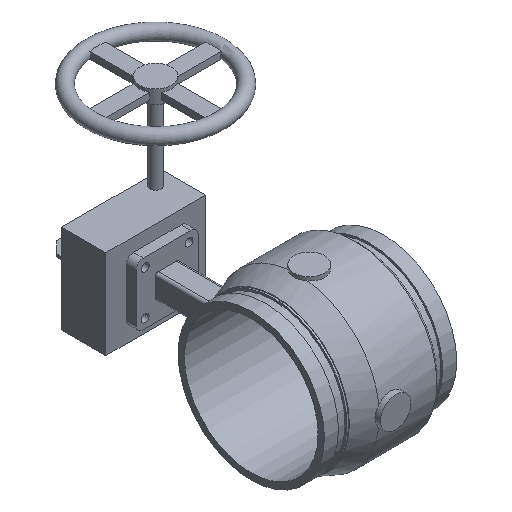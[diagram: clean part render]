
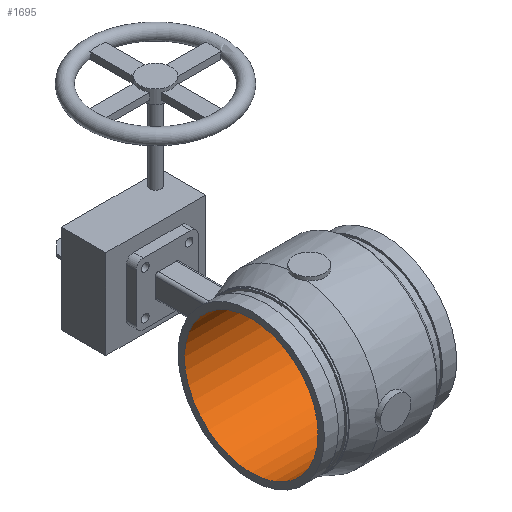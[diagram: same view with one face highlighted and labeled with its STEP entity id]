
A CAD part, isometric view. The second image highlights one B-rep face of the part: STEP entity #1695.
In plain terms, the highlighted cylindrical face has radius 75.438 mm (diameter 150.876 mm), a full revolution.
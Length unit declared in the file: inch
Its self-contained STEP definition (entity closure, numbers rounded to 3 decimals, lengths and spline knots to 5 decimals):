
#52=CYLINDRICAL_SURFACE('',#1827,2.97);
#117=CIRCLE('',#1828,2.97);
#118=CIRCLE('',#1829,2.97);
#119=CIRCLE('',#1830,2.97);
#120=CIRCLE('',#1831,2.97);
#217=FACE_OUTER_BOUND('',#310,.T.);
#310=EDGE_LOOP('',(#1158,#1159,#1160,#1161,#1162,#1163));
#438=LINE('',#2874,#552);
#552=VECTOR('',#2099,2.97);
#680=VERTEX_POINT('',#2870);
#681=VERTEX_POINT('',#2871);
#682=VERTEX_POINT('',#2873);
#683=VERTEX_POINT('',#2875);
#865=EDGE_CURVE('',#680,#681,#117,.T.);
#866=EDGE_CURVE('',#681,#682,#438,.T.);
#867=EDGE_CURVE('',#683,#682,#118,.T.);
#868=EDGE_CURVE('',#682,#683,#119,.T.);
#869=EDGE_CURVE('',#681,#680,#120,.T.);
#1158=ORIENTED_EDGE('',*,*,#865,.T.);
#1159=ORIENTED_EDGE('',*,*,#866,.T.);
#1160=ORIENTED_EDGE('',*,*,#867,.F.);
#1161=ORIENTED_EDGE('',*,*,#868,.F.);
#1162=ORIENTED_EDGE('',*,*,#866,.F.);
#1163=ORIENTED_EDGE('',*,*,#869,.T.);
#1695=ADVANCED_FACE('',(#217),#52,.F.);
#1827=AXIS2_PLACEMENT_3D('',#2869,#2095,#2096);
#1828=AXIS2_PLACEMENT_3D('',#2872,#2097,#2098);
#1829=AXIS2_PLACEMENT_3D('',#2876,#2100,#2101);
#1830=AXIS2_PLACEMENT_3D('',#2877,#2102,#2103);
#1831=AXIS2_PLACEMENT_3D('',#2878,#2104,#2105);
#2095=DIRECTION('center_axis',(1.,0.,0.));
#2096=DIRECTION('ref_axis',(0.,1.,0.));
#2097=DIRECTION('center_axis',(1.,0.,0.));
#2098=DIRECTION('ref_axis',(0.,0.,-1.));
#2099=DIRECTION('',(-1.,0.,0.));
#2100=DIRECTION('center_axis',(1.,0.,0.));
#2101=DIRECTION('ref_axis',(0.,0.,-1.));
#2102=DIRECTION('center_axis',(1.,0.,0.));
#2103=DIRECTION('ref_axis',(0.,0.,-1.));
#2104=DIRECTION('center_axis',(1.,0.,0.));
#2105=DIRECTION('ref_axis',(0.,0.,-1.));
#2869=CARTESIAN_POINT('Origin',(0.36,0.,
0.));
#2870=CARTESIAN_POINT('',(3.3,0.,-2.97));
#2871=CARTESIAN_POINT('',(3.3,-2.97,0.));
#2872=CARTESIAN_POINT('Origin',(3.3,0.,0.));
#2873=CARTESIAN_POINT('',(-2.58,-2.97,0.));
#2874=CARTESIAN_POINT('',(0.36,-2.97,0.));
#2875=CARTESIAN_POINT('',(-2.58,2.97,0.));
#2876=CARTESIAN_POINT('Origin',(-2.58,0.,0.));
#2877=CARTESIAN_POINT('Origin',(-2.58,0.,0.));
#2878=CARTESIAN_POINT('Origin',(3.3,0.,0.));
